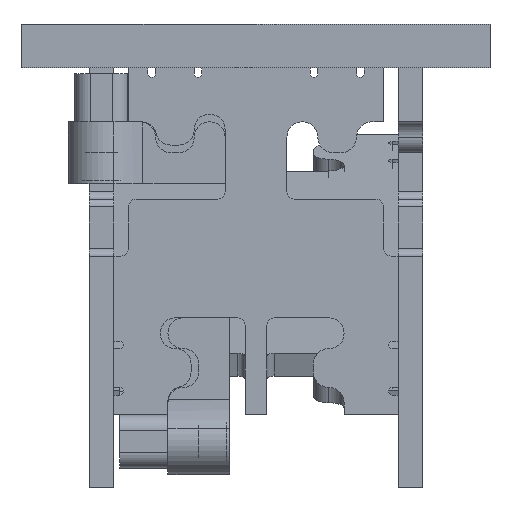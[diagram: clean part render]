
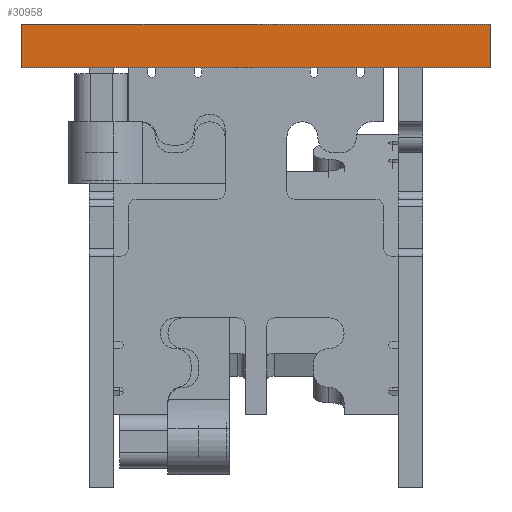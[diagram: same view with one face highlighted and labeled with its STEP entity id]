
A CAD part, front view. The second image highlights one B-rep face of the part: STEP entity #30958.
In plain terms, the highlighted planar face has unit normal (0, -1, 0).
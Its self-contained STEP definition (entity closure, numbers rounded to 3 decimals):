
#555=PLANE('',#32926);
#1696=FACE_OUTER_BOUND('',#3460,.T.);
#3460=EDGE_LOOP('',(#22683,#22684,#22685,#22686));
#5449=LINE('',#46269,#8867);
#5453=LINE('',#46277,#8871);
#5456=LINE('',#46283,#8874);
#5459=LINE('',#46288,#8877);
#8867=VECTOR('',#37075,10.);
#8871=VECTOR('',#37081,10.);
#8874=VECTOR('',#37086,10.);
#8877=VECTOR('',#37091,10.);
#13539=VERTEX_POINT('',#46267);
#13540=VERTEX_POINT('',#46268);
#13543=VERTEX_POINT('',#46276);
#13545=VERTEX_POINT('',#46282);
#16993=EDGE_CURVE('',#13539,#13540,#5449,.T.);
#16997=EDGE_CURVE('',#13543,#13540,#5453,.T.);
#17000=EDGE_CURVE('',#13545,#13543,#5456,.T.);
#17003=EDGE_CURVE('',#13539,#13545,#5459,.T.);
#22683=ORIENTED_EDGE('',*,*,#17003,.F.);
#22684=ORIENTED_EDGE('',*,*,#16993,.T.);
#22685=ORIENTED_EDGE('',*,*,#16997,.F.);
#22686=ORIENTED_EDGE('',*,*,#17000,.F.);
#30958=ADVANCED_FACE('',(#1696),#555,.F.);
#32926=AXIS2_PLACEMENT_3D('',#46291,#37095,#37096);
#37075=DIRECTION('',(0.,0.,1.));
#37081=DIRECTION('',(1.,0.,0.));
#37086=DIRECTION('',(0.,0.,1.));
#37091=DIRECTION('',(-1.,0.,0.));
#37095=DIRECTION('center_axis',(0.,1.,0.));
#37096=DIRECTION('ref_axis',(1.,0.,0.));
#46267=CARTESIAN_POINT('',(60.275,0.,-5.64));
#46268=CARTESIAN_POINT('',(60.275,0.,0.));
#46269=CARTESIAN_POINT('',(60.275,0.,-5.64));
#46276=CARTESIAN_POINT('',(-0.275,0.,0.));
#46277=CARTESIAN_POINT('',(-0.275,0.,0.));
#46282=CARTESIAN_POINT('',(-0.275,0.,-5.64));
#46283=CARTESIAN_POINT('',(-0.275,0.,-5.64));
#46288=CARTESIAN_POINT('',(30.,0.,-5.64));
#46291=CARTESIAN_POINT('Origin',(30.,0.,-2.82));
